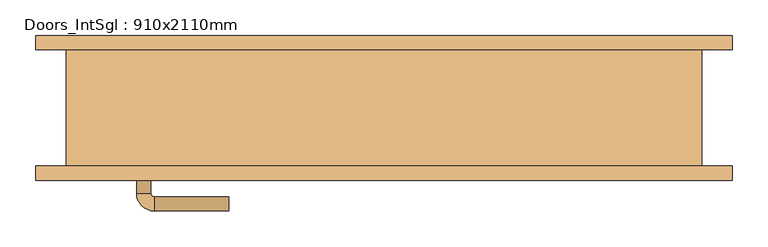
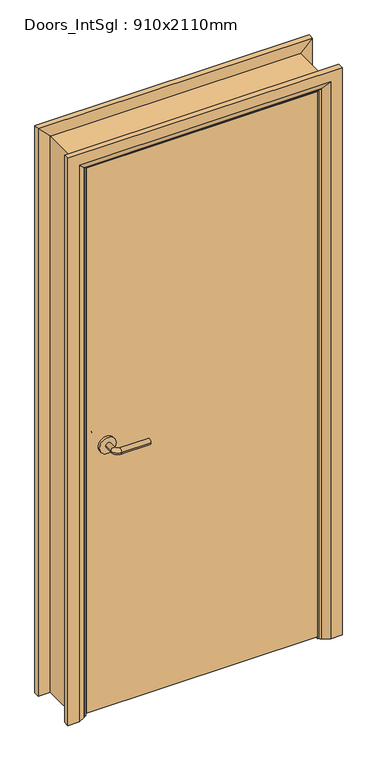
"""IFC4 building model written with IfcOpenShell, lengths in millimetres: door geometry, Doors_IntSgl : 910x2110mm."""

from ifc_helpers import new_model, si_unit, point, frame, frame_2d, origin, place, context, project, spatial, polyline, circle_curve, ellipse_curve, trimmed, segment, composite_curve, outline, extrude, faceted_brep, source, transform, mapped, element, save
from ifc_brep_helpers import plane_surface, cylinder_surface, revolved_surface, advanced_brep


def doors_intsgl_910x2110mm_3ba4657c(model_context):
    return source(origin(), model_context, "Body", "SolidModel", [
        advanced_brep(
        [(-348.0, -36.0, 1000.0), (-328.0, -36.0, 1000.0), (-348.0, -6.0, 1000.0), (-328.0, -6.0, 1000.0), (-323.0, -1.0, 1000.0), (-323.0, 19.0, 1000.0), (-218.0, 19.0, 1000.0), (-218.0, -1.0, 1000.0)],
        [
            (0, 1, circle_curve(frame((-338.0, -36.0, 1000.0), z_axis=(0.0, -1.0, 0.0), x_axis=(1.0, 0.0, 0.0)), 10.0)),
            (1, 0, circle_curve(frame((-338.0, -36.0, 1000.0), z_axis=(0.0, -1.0, 0.0), x_axis=(1.0, 0.0, 0.0)), 10.0)),
            (0, 2),
            (2, 3, circle_curve(frame((-338.0, -6.0, 1000.0), z_axis=(0.0, -1.0, 0.0), x_axis=(1.0, 0.0, 0.0)), 10.0)),
            (3, 1),
            (3, 2, circle_curve(frame((-338.0, -6.0, 1000.0), z_axis=(0.0, -1.0, 0.0), x_axis=(1.0, 0.0, 0.0)), 10.0)),
            (4, 3, circle_curve(frame((-323.0, -6.0, 1000.0), z_axis=(0.0, 0.0, 1.0), x_axis=(-1.0, 0.0, 0.0)), 5.0)),
            (2, 5, circle_curve(frame((-323.0, -6.0, 1000.0), z_axis=(0.0, 0.0, -1.0), x_axis=(-1.0, 0.0, 0.0)), 25.0)),
            (5, 4, circle_curve(frame((-323.0, 9.0, 1000.0), z_axis=(-1.0, 0.0, 0.0), x_axis=(0.0, -1.0, 0.0)), 10.0)),
            (4, 5, circle_curve(frame((-323.0, 9.0, 1000.0), z_axis=(-1.0, 0.0, 0.0), x_axis=(0.0, -1.0, 0.0)), 10.0)),
            (6, 7, circle_curve(frame((-218.0, 9.0, 1000.0), z_axis=(1.0, 0.0, 0.0), x_axis=(0.0, -1.0, 0.0)), 10.0)),
            (7, 6, circle_curve(frame((-218.0, 9.0, 1000.0), z_axis=(1.0, 0.0, 0.0), x_axis=(0.0, -1.0, 0.0)), 10.0)),
            (5, 6),
            (7, 4),
        ],
        [
            plane_surface(frame((-338.0, -36.0, 1000.0), z_axis=(0.0, -1.0, 0.0), x_axis=(0.0, 0.0, 1.0))),
            cylinder_surface(frame((-338.0, -36.0, 1000.0), z_axis=(0.0, -1.0, 0.0), x_axis=(1.0, 0.0, 0.0)), 10.0),
            revolved_surface(trimmed(ellipse_curve(frame((-338.0, -6.0, 1000.0), z_axis=(0.0, -1.0, 0.0), x_axis=(1.0, 0.0, 0.0)), 10.0, 10.0), [point((-348.0, -6.0, 1000.0))], [point((-328.0, -6.0, 1000.0))], True, "CARTESIAN"), (-323.0, -6.0, 1000.0), (0.0, 0.0, -1.0)),
            revolved_surface(trimmed(ellipse_curve(frame((-338.0, -6.0, 1000.0), z_axis=(0.0, -1.0, 0.0), x_axis=(1.0, 0.0, 0.0)), 10.0, 10.0), [point((-328.0, -6.0, 1000.0))], [point((-348.0, -6.0, 1000.0))], True, "CARTESIAN"), (-323.0, -6.0, 1000.0), (0.0, 0.0, -1.0)),
            plane_surface(frame((-218.0, 9.0, 1000.0), z_axis=(1.0, 0.0, 0.0), x_axis=(0.0, 0.0, 1.0))),
            cylinder_surface(frame((-323.0, 9.0, 1000.0), z_axis=(-1.0, 0.0, 0.0), x_axis=(0.0, -1.0, 0.0)), 10.0),
        ],
        [
            (0, [[1, 2]]),
            (1, [[-1, 3, 4, 5]]),
            (1, [[-2, -5, 6, -3]]),
            (2, [[7, -4, 8, 9]]),
            (3, [[-8, -6, -7, 10]]),
            (4, [[11, 12]]),
            (5, [[-9, 13, -12, 14]]),
            (5, [[-10, -14, -11, -13]]),
        ],
    ),
        extrude(outline(composite_curve([segment(trimmed(circle_curve(frame_2d((1000.0, -340.5)), 30.0), [point((1000.0, -370.5))], [point((1000.0, -310.5))], False, "CARTESIAN"), True, "CONTINUOUS"), segment(trimmed(circle_curve(frame_2d((1000.0, -340.5)), 30.0), [point((1000.0, -310.5))], [point((1000.0, -370.5))], False, "CARTESIAN"), True, "CONTINUOUS")], self_intersect=False)), frame((0.0, -44.0, 0.0), z_axis=(0.0, 1.0, 0.0), x_axis=(0.0, 0.0, 1.0)), (0.0, 0.0, 1.0), 8.0),
        advanced_brep(
        [(-348.0, -90.0, 1000.0), (-328.0, -90.0, 1000.0), (-328.0, -120.0, 1000.0), (-348.0, -120.0, 1000.0), (-323.0, -125.0, 1000.0), (-323.0, -145.0, 1000.0), (-218.0, -145.0, 1000.0), (-218.0, -125.0, 1000.0)],
        [
            (0, 1, circle_curve(frame((-338.0, -90.0, 1000.0), z_axis=(0.0, 1.0, 0.0), x_axis=(1.0, 0.0, 0.0)), 10.0)),
            (1, 0, circle_curve(frame((-338.0, -90.0, 1000.0), z_axis=(0.0, 1.0, 0.0), x_axis=(1.0, 0.0, 0.0)), 10.0)),
            (1, 2),
            (2, 3, circle_curve(frame((-338.0, -120.0, 1000.0), z_axis=(0.0, 1.0, 0.0), x_axis=(1.0, 0.0, 0.0)), 10.0)),
            (3, 0),
            (3, 2, circle_curve(frame((-338.0, -120.0, 1000.0), z_axis=(0.0, 1.0, 0.0), x_axis=(1.0, 0.0, 0.0)), 10.0)),
            (4, 5, circle_curve(frame((-323.0, -135.0, 1000.0), z_axis=(-1.0, 0.0, 0.0), x_axis=(0.0, 1.0, 0.0)), 10.0)),
            (5, 3, circle_curve(frame((-323.0, -120.0, 1000.0), z_axis=(0.0, 0.0, -1.0), x_axis=(-1.0, 0.0, 0.0)), 25.0)),
            (2, 4, circle_curve(frame((-323.0, -120.0, 1000.0), z_axis=(0.0, 0.0, 1.0), x_axis=(-1.0, 0.0, 0.0)), 5.0)),
            (5, 4, circle_curve(frame((-323.0, -135.0, 1000.0), z_axis=(-1.0, 0.0, 0.0), x_axis=(0.0, 1.0, 0.0)), 10.0)),
            (6, 7, circle_curve(frame((-218.0, -135.0, 1000.0), z_axis=(1.0, 0.0, 0.0), x_axis=(0.0, 1.0, 0.0)), 10.0)),
            (7, 6, circle_curve(frame((-218.0, -135.0, 1000.0), z_axis=(1.0, 0.0, 0.0), x_axis=(0.0, 1.0, 0.0)), 10.0)),
            (4, 7),
            (6, 5),
        ],
        [
            plane_surface(frame((-338.0, -90.0, 1000.0), z_axis=(0.0, 1.0, 0.0), x_axis=(0.0, 0.0, 1.0))),
            cylinder_surface(frame((-338.0, -90.0, 1000.0), z_axis=(0.0, 1.0, 0.0), x_axis=(1.0, 0.0, 0.0)), 10.0),
            revolved_surface(trimmed(ellipse_curve(frame((-338.0, -120.0, 1000.0), z_axis=(0.0, -1.0, 0.0), x_axis=(1.0, 0.0, 0.0)), 10.0, 10.0), [point((-348.0, -120.0, 1000.0))], [point((-328.0, -120.0, 1000.0))], True, "CARTESIAN"), (-323.0, -120.0, 1000.0), (0.0, 0.0, -1.0)),
            revolved_surface(trimmed(ellipse_curve(frame((-338.0, -120.0, 1000.0), z_axis=(0.0, -1.0, 0.0), x_axis=(1.0, 0.0, 0.0)), 10.0, 10.0), [point((-328.0, -120.0, 1000.0))], [point((-348.0, -120.0, 1000.0))], True, "CARTESIAN"), (-323.0, -120.0, 1000.0), (0.0, 0.0, -1.0)),
            plane_surface(frame((-218.0, -135.0, 1000.0), z_axis=(1.0, 0.0, 0.0), x_axis=(0.0, 0.0, 1.0))),
            cylinder_surface(frame((-323.0, -135.0, 1000.0), z_axis=(-1.0, 0.0, 0.0), x_axis=(0.0, 1.0, 0.0)), 10.0),
        ],
        [
            (0, [[1, 2]]),
            (1, [[3, 4, 5, -2]]),
            (1, [[-5, 6, -3, -1]]),
            (2, [[7, 8, -4, 9]]),
            (3, [[10, -9, -6, -8]]),
            (4, [[11, 12]]),
            (5, [[13, -11, 14, -7]]),
            (5, [[-14, -12, -13, -10]]),
        ],
    ),
        extrude(outline(composite_curve([segment(trimmed(circle_curve(frame_2d((1000.0, -340.5)), 30.0), [point((1000.0, -370.5))], [point((1000.0, -310.5))], False, "CARTESIAN"), True, "CONTINUOUS"), segment(trimmed(circle_curve(frame_2d((1000.0, -340.5)), 30.0), [point((1000.0, -310.5))], [point((1000.0, -370.5))], False, "CARTESIAN"), True, "CONTINUOUS")], self_intersect=False)), frame((0.0, -90.0, 0.0), z_axis=(0.0, 1.0, 0.0), x_axis=(0.0, 0.0, 1.0)), (0.0, 0.0, 1.0), 8.0),
        extrude(outline(polyline([(413.0, -44.0), (413.0, -82.0), (-413.0, -82.0), (-413.0, -44.0), (413.0, -44.0)])), frame((0.0, 0.0, 8.0), z_axis=(0.0, 0.0, 1.0), x_axis=(1.0, 0.0, 0.0)), (0.0, 0.0, 1.0), 2060.0),
        advanced_brep(
        [(490.0, -102.0, 0.0), (450.0, -102.0, 0.0), (424.0, -88.0, 0.0), (420.0, -82.0, 0.0), (490.0, -82.0, 0.0), (490.0, -82.0, 2145.0), (490.0, -102.0, 2145.0), (420.0, -82.0, 2075.0), (-420.0, -82.0, 2075.0), (-420.0, -82.0, 0.0), (-490.0, -82.0, 0.0), (-490.0, -82.0, 2145.0), (424.0, -88.0, 2079.0), (450.0, -102.0, 2105.0), (-490.0, -102.0, 2145.0), (-490.0, -102.0, 0.0), (-450.0, -102.0, 0.0), (-450.0, -102.0, 2105.0), (-424.0, -88.0, 2079.0), (-424.0, -88.0, 0.0)],
        [
            (0, 1),
            (1, 2),
            (2, 3, circle_curve(frame((428.0, -81.0, 0.0), z_axis=(0.0, 0.0, -1.0), x_axis=(1.0, 0.0, 0.0)), 8.0622577)),
            (3, 4),
            (4, 0),
            (4, 5),
            (5, 6),
            (6, 0),
            (3, 7),
            (7, 8),
            (8, 9),
            (9, 10),
            (10, 11),
            (11, 5),
            (2, 12),
            (12, 7, ellipse_curve(frame((428.0, -81.0, 2083.0), z_axis=(0.7071067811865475, 0.0, -0.7071067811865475), x_axis=(-0.7071067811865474, 0.0, -0.7071067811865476)), 11.4017543, 8.0622577)),
            (1, 13),
            (13, 12),
            (6, 14),
            (14, 15),
            (15, 16),
            (16, 17),
            (17, 13),
            (11, 14),
            (12, 18),
            (18, 8, ellipse_curve(frame((-428.0, -81.0, 2083.0), z_axis=(0.7071067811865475, 0.0, 0.7071067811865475), x_axis=(0.7071067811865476, 0.0, -0.7071067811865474)), 11.4017543, 8.0622577)),
            (17, 18),
            (15, 10),
            (9, 19, circle_curve(frame((-428.0, -81.0, 0.0), z_axis=(0.0, 0.0, -1.0), x_axis=(-1.0, 0.0, 0.0)), 8.0622577)),
            (19, 16),
            (18, 19),
        ],
        [
            plane_surface(frame((420.0, -82.0, 0.0), z_axis=(0.0, 0.0, -1.0), x_axis=(0.0, 1.0, 0.0))),
            plane_surface(frame((490.0, -102.0, 0.0), z_axis=(1.0, 0.0, 0.0), x_axis=(0.0, 0.0, 1.0))),
            plane_surface(frame((490.0, -82.0, 0.0), z_axis=(0.0, 1.0, 0.0), x_axis=(0.0, 0.0, 1.0))),
            cylinder_surface(frame((428.0, -81.0, 0.0), z_axis=(0.0, 0.0, -1.0), x_axis=(1.0, 0.0, 0.0)), 8.0622577),
            plane_surface(frame((424.0, -88.0, 0.0), z_axis=(-0.4740998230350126, -0.880471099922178, 0.0), x_axis=(0.0, 0.0, 1.0))),
            plane_surface(frame((450.0, -102.0, 0.0), z_axis=(0.0, -1.0, 0.0), x_axis=(0.0, 0.0, 1.0))),
            plane_surface(frame((490.0, -102.0, 2145.0), z_axis=(0.0, 0.0, 1.0), x_axis=(-1.0, 0.0, 0.0))),
            cylinder_surface(frame((420.0, -81.0, 2083.0), z_axis=(1.0, 0.0, 0.0), x_axis=(0.0, 0.0, 1.0)), 8.0622577),
            plane_surface(frame((424.0, -88.0, 2079.0), z_axis=(0.0, -0.8804710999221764, -0.4740998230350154), x_axis=(-1.0, 0.0, 0.0))),
            plane_surface(frame((-420.0, -82.0, 0.0), z_axis=(0.0, 0.0, -1.0), x_axis=(0.0, 1.0, 0.0))),
            plane_surface(frame((-490.0, -102.0, 2145.0), z_axis=(-1.0, 0.0, 0.0), x_axis=(0.0, 0.0, -1.0))),
            cylinder_surface(frame((-428.0, -81.0, 2075.0), z_axis=(0.0, 0.0, 1.0), x_axis=(-1.0, 0.0, 0.0)), 8.0622577),
            plane_surface(frame((-424.0, -88.0, 2079.0), z_axis=(0.47409982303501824, -0.8804710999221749, 0.0), x_axis=(0.0, 0.0, -1.0))),
        ],
        [
            (0, [[1, 2, 3, 4, 5]]),
            (1, [[6, 7, 8, -5]]),
            (2, [[9, 10, 11, 12, 13, 14, -6, -4]]),
            (3, [[15, 16, -9, -3]]),
            (4, [[17, 18, -15, -2]]),
            (5, [[-8, 19, 20, 21, 22, 23, -17, -1]]),
            (6, [[-14, 24, -19, -7]]),
            (7, [[25, 26, -10, -16]]),
            (8, [[-23, 27, -25, -18]]),
            (9, [[28, -12, 29, 30, -21]]),
            (10, [[-13, -28, -20, -24]]),
            (11, [[31, -29, -11, -26]]),
            (12, [[-22, -30, -31, -27]]),
        ],
    ),
        extrude(outline(polyline([(0.0, -396.0), (2051.0, -396.0), (2051.0, 396.0), (0.0, 396.0), (0.0, 415.0), (2070.0, 415.0), (2070.0, -415.0), (0.0, -415.0), (0.0, -396.0)])), frame((0.0, -42.0, 0.0), z_axis=(0.0, 1.0, 0.0), x_axis=(0.0, 0.0, 1.0)), (0.0, 0.0, 1.0), 32.0),
        advanced_brep(
        [(-490.0, 102.0, 0.0), (-450.0, 102.0, 0.0), (-424.0, 88.0, 0.0), (-420.0, 82.0, 0.0), (-490.0, 82.0, 0.0), (-490.0, 82.0, 2145.0), (-490.0, 102.0, 2145.0), (-420.0, 82.0, 2075.0), (-424.0, 88.0, 2079.0), (-450.0, 102.0, 2105.0), (490.0, 82.0, 2145.0), (490.0, 102.0, 2145.0), (420.0, 82.0, 2075.0), (424.0, 88.0, 2079.0), (450.0, 102.0, 2105.0), (490.0, 102.0, 0.0), (490.0, 82.0, 0.0), (420.0, 82.0, 0.0), (424.0, 88.0, 0.0), (450.0, 102.0, 0.0)],
        [
            (0, 1),
            (1, 2),
            (2, 3, circle_curve(frame((-428.0, 81.0, 0.0), z_axis=(0.0, 0.0, -1.0), x_axis=(-1.0, 0.0, 0.0)), 8.0622577)),
            (3, 4),
            (4, 0),
            (4, 5),
            (5, 6),
            (6, 0),
            (3, 7),
            (7, 5),
            (2, 8),
            (8, 7, ellipse_curve(frame((-428.0, 81.0, 2083.0), z_axis=(-0.7071067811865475, 0.0, -0.7071067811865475), x_axis=(0.7071067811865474, 0.0, -0.7071067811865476)), 11.4017543, 8.0622577)),
            (1, 9),
            (9, 8),
            (6, 9),
            (5, 10),
            (10, 11),
            (11, 6),
            (7, 12),
            (12, 10),
            (8, 13),
            (13, 12, ellipse_curve(frame((428.0, 81.0, 2083.0), z_axis=(-0.7071067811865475, 0.0, 0.7071067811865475), x_axis=(-0.7071067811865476, 0.0, -0.7071067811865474)), 11.4017543, 8.0622577)),
            (9, 14),
            (14, 13),
            (11, 14),
            (15, 16),
            (16, 17),
            (17, 18, circle_curve(frame((428.0, 81.0, 0.0), z_axis=(0.0, 0.0, -1.0), x_axis=(1.0, 0.0, 0.0)), 8.0622577)),
            (18, 19),
            (19, 15),
            (10, 16),
            (15, 11),
            (12, 17),
            (13, 18),
            (14, 19),
        ],
        [
            plane_surface(frame((-420.0, 154.8010989, 0.0), z_axis=(0.0, 0.0, -1.0), x_axis=(1.0, 0.0, 0.0))),
            plane_surface(frame((-490.0, 102.0, 0.0), z_axis=(-1.0, 0.0, 0.0), x_axis=(0.0, 0.0, 1.0))),
            plane_surface(frame((-490.0, 82.0, 0.0), z_axis=(0.0, -1.0, 0.0), x_axis=(0.0, 0.0, 1.0))),
            cylinder_surface(frame((-428.0, 81.0, 0.0), z_axis=(0.0, 0.0, -1.0), x_axis=(-1.0, 0.0, 0.0)), 8.0622577),
            plane_surface(frame((-424.0, 88.0, 0.0), z_axis=(0.4740998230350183, 0.8804710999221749, 0.0), x_axis=(0.0, 0.0, 1.0))),
            plane_surface(frame((-450.0, 102.0, 0.0), z_axis=(0.0, 1.0, 0.0), x_axis=(0.0, 0.0, 1.0))),
            plane_surface(frame((-490.0, 102.0, 2145.0), z_axis=(0.0, 0.0, 1.0), x_axis=(1.0, 0.0, 0.0))),
            plane_surface(frame((-490.0, 82.0, 2145.0), z_axis=(0.0, -1.0, 0.0), x_axis=(1.0, 0.0, 0.0))),
            cylinder_surface(frame((-420.0, 81.0, 2083.0), z_axis=(-1.0, 0.0, 0.0), x_axis=(0.0, 0.0, 1.0)), 8.0622577),
            plane_surface(frame((-424.0, 88.0, 2079.0), z_axis=(0.0, 0.8804710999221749, -0.4740998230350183), x_axis=(1.0, 0.0, 0.0))),
            plane_surface(frame((-450.0, 102.0, 2105.0), z_axis=(0.0, 1.0, 0.0), x_axis=(1.0, 0.0, 0.0))),
            plane_surface(frame((420.0, 154.8010989, 0.0), z_axis=(0.0, 0.0, -1.0), x_axis=(-1.0, 0.0, 0.0))),
            plane_surface(frame((490.0, 102.0, 2145.0), z_axis=(1.0, 0.0, 0.0), x_axis=(0.0, 0.0, -1.0))),
            plane_surface(frame((490.0, 82.0, 2145.0), z_axis=(0.0, -1.0, 0.0), x_axis=(0.0, 0.0, -1.0))),
            cylinder_surface(frame((428.0, 81.0, 2075.0), z_axis=(0.0, 0.0, 1.0), x_axis=(1.0, 0.0, 0.0)), 8.0622577),
            plane_surface(frame((424.0, 88.0, 2079.0), z_axis=(-0.4740998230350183, 0.8804710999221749, 0.0), x_axis=(0.0, 0.0, -1.0))),
            plane_surface(frame((450.0, 102.0, 2105.0), z_axis=(0.0, 1.0, 0.0), x_axis=(0.0, 0.0, -1.0))),
        ],
        [
            (0, [[1, 2, 3, 4, 5]]),
            (1, [[6, 7, 8, -5]]),
            (2, [[9, 10, -6, -4]]),
            (3, [[11, 12, -9, -3]]),
            (4, [[13, 14, -11, -2]]),
            (5, [[-8, 15, -13, -1]]),
            (6, [[16, 17, 18, -7]]),
            (7, [[19, 20, -16, -10]]),
            (8, [[21, 22, -19, -12]]),
            (9, [[23, 24, -21, -14]]),
            (10, [[-18, 25, -23, -15]]),
            (11, [[26, 27, 28, 29, 30]]),
            (12, [[31, -26, 32, -17]]),
            (13, [[33, -27, -31, -20]]),
            (14, [[34, -28, -33, -22]]),
            (15, [[35, -29, -34, -24]]),
            (16, [[-32, -30, -35, -25]]),
        ],
    ),
        faceted_brep([(-415.0, -82.0, 0.0), (-447.0, -82.0, 0.0), (-447.0, 82.0, 0.0), (-415.0, 82.0, 0.0), (-415.0, 82.0, 2070.0), (-415.0, -82.0, 2070.0), (-447.0, 82.0, 2102.0), (-447.0, -82.0, 2102.0), (415.0, 82.0, 2070.0), (415.0, -82.0, 2070.0), (447.0, 82.0, 2102.0), (447.0, -82.0, 2102.0), (415.0, -82.0, 0.0), (415.0, 82.0, 0.0), (447.0, 82.0, 0.0), (447.0, -82.0, 0.0)], [[[0, 1, 2, 3]], [[3, 4, 5, 0]], [[2, 6, 4, 3]], [[1, 7, 6, 2]], [[0, 5, 7, 1]], [[4, 8, 9, 5]], [[6, 10, 8, 4]], [[7, 11, 10, 6]], [[5, 9, 11, 7]], [[12, 13, 14, 15]], [[8, 13, 12, 9]], [[10, 14, 13, 8]], [[11, 15, 14, 10]], [[9, 12, 15, 11]]]),
    ])


if __name__ == "__main__":
    model = new_model("IFC4")
    model_context = context("Model", 3, world=origin())
    ifc_project = project(units=[si_unit("LENGTHUNIT", "METRE", prefix="MILLI")], contexts=[model_context])
    site = spatial("IfcSite", under=ifc_project)
    building = spatial("IfcBuilding", under=site)
    placement = place(None, origin())
    doors_intsgl_910x2110mm_shape = doors_intsgl_910x2110mm_3ba4657c(model_context)
    element("IfcDoor", 1, ObjectType="Doors_IntSgl : 910x2110mm", at=placement, inside=building, context=model_context, shape_type="MappedRepresentation", body=[
        mapped(doors_intsgl_910x2110mm_shape, transform((0.0, 0.0, 0.0), x_axis=(1.0, 0.0, 0.0), y_axis=(0.0, 1.0, 0.0), z_axis=(0.0, 0.0, 1.0))),
    ])
    save(model, "model.ifc")
